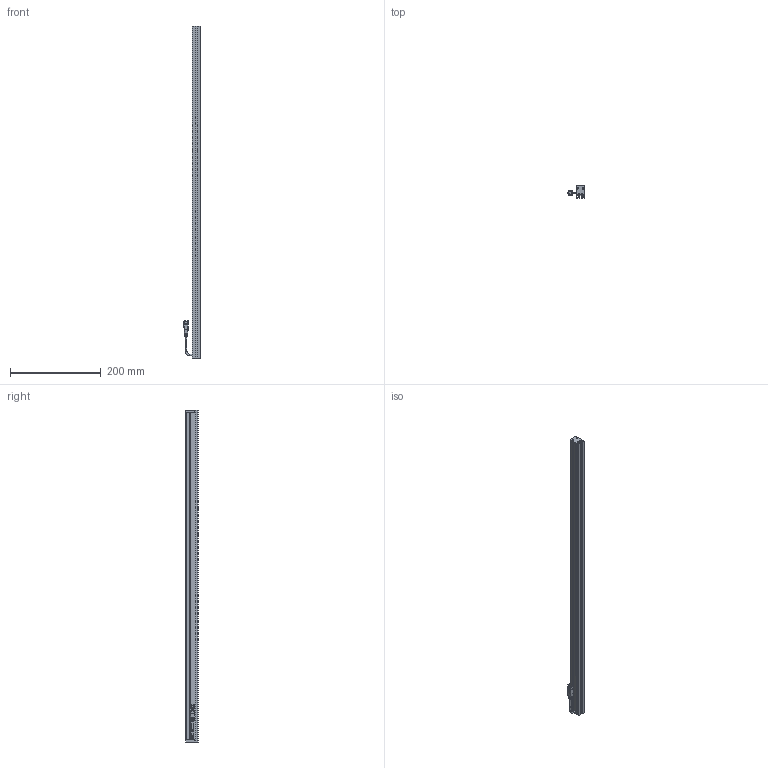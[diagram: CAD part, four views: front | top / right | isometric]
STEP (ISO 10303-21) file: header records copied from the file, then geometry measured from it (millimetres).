
FILE_DESCRIPTION (( 'STEP AP203' ), '1' );
FILE_NAME ('CK-BL73218.STEP', '2025-12-26T09:24:38', ( '' ), ( '' ), 'SwSTEP 2.0', 'SolidWorks 2022', '' );
FILE_SCHEMA (( 'CONFIG_CONTROL_DESIGN' ));
Length unit declared in the file: millimetre
Products named in the file (6): CK-BL73218-002A; CK-BL73218-003A; 十字沉头螺丝 M2x10; 光源线-01; CK-BL73218-001A; CK-BL73218
Assembly tree (9 placements, depth 2):
  CK-BL73218
    CK-BL73218-001A
    CK-BL73218-002A  x2
    CK-BL73218-003A
    光源线-01
    十字沉头螺丝 M2x10  x4
Bounding box: 37.34 x 27 x 732 mm (x, y, z)
Volume: 163040 mm3; surface area: 160997.7 mm2
Topology: 11 solids, 11 shells, 474 faces, 1231 edges, 780 vertices
Faces by surface type: plane 271, cylinder 149, cone 34, bspline 20
Entity records: 12442 total; most frequent: CARTESIAN_POINT 2514, ORIENTED_EDGE 1936, DIRECTION 1916, EDGE_CURVE 968, VECTOR 668, LINE 668, VERTEX_POINT 626, AXIS2_PLACEMENT_3D 624
